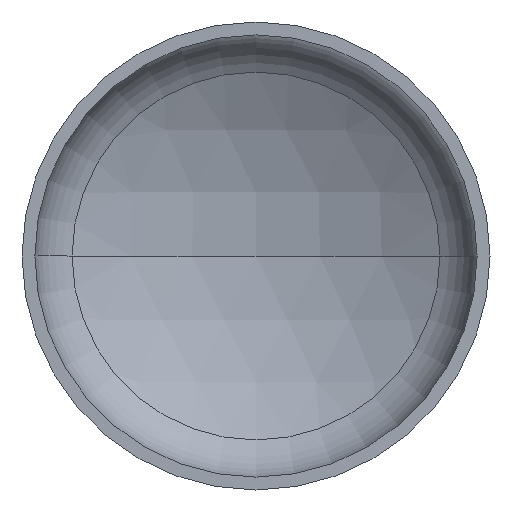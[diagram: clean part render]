
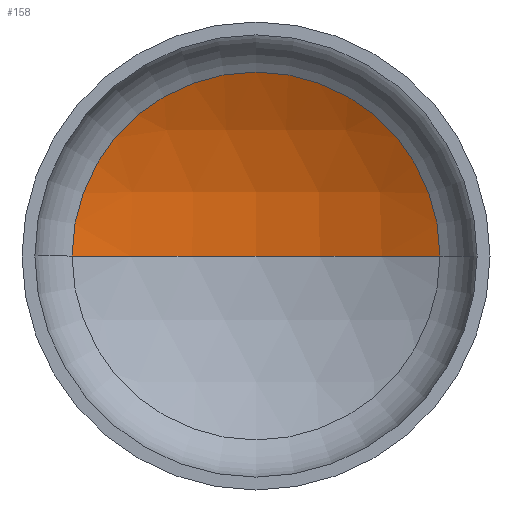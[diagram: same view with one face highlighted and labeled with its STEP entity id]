
A CAD part, front view. The second image highlights one B-rep face of the part: STEP entity #158.
In plain terms, the highlighted spherical face has radius 640 mm.
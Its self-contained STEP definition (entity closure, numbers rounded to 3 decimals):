
#12 = AXIS2_PLACEMENT_3D ( 'NONE', #140, #308, #167 ) ;
#17 = VERTEX_POINT ( 'NONE', #72 ) ;
#19 = AXIS2_PLACEMENT_3D ( 'NONE', #215, #239, #374 ) ;
#37 = AXIS2_PLACEMENT_3D ( 'NONE', #284, #217, #349 ) ;
#45 = AXIS2_PLACEMENT_3D ( 'NONE', #123, #344, #161 ) ;
#49 = ORIENTED_EDGE ( 'NONE', *, *, #350, .F. ) ;
#55 = ORIENTED_EDGE ( 'NONE', *, *, #336, .T. ) ;
#57 = VERTEX_POINT ( 'NONE', #97 ) ;
#67 = EDGE_LOOP ( 'NONE', ( #49, #55, #77 ) ) ;
#72 = CARTESIAN_POINT ( 'NONE',  ( 0., 261.429, 0. ) ) ;
#77 = ORIENTED_EDGE ( 'NONE', *, *, #334, .T. ) ;
#97 = CARTESIAN_POINT ( 'NONE',  ( 314.408, 178.876, 0. ) ) ;
#107 = VERTEX_POINT ( 'NONE', #214 ) ;
#123 = CARTESIAN_POINT ( 'NONE',  ( 0., -378.571, 0. ) ) ;
#140 = CARTESIAN_POINT ( 'NONE',  ( 0., -378.571, 0. ) ) ;
#158 = ADVANCED_FACE ( 'NONE', ( #163 ), #408, .F. ) ;
#161 = DIRECTION ( 'NONE',  ( -1., 0., 0. ) ) ;
#163 = FACE_OUTER_BOUND ( 'NONE', #67, .T. ) ;
#167 = DIRECTION ( 'NONE',  ( 1., 0., 0. ) ) ;
#195 = CIRCLE ( 'NONE', #12, 640. ) ;
#214 = CARTESIAN_POINT ( 'NONE',  ( -314.408, 178.876, 0. ) ) ;
#215 = CARTESIAN_POINT ( 'NONE',  ( 0., -378.571, 0. ) ) ;
#217 = DIRECTION ( 'NONE',  ( 0., -1., 0. ) ) ;
#239 = DIRECTION ( 'NONE',  ( 0., 0., -1. ) ) ;
#264 = CIRCLE ( 'NONE', #37, 314.408 ) ;
#284 = CARTESIAN_POINT ( 'NONE',  ( 0., 178.876, 0. ) ) ;
#308 = DIRECTION ( 'NONE',  ( 0., 0., 1. ) ) ;
#334 = EDGE_CURVE ( 'NONE', #57, #107, #264, .T. ) ;
#336 = EDGE_CURVE ( 'NONE', #17, #57, #383, .T. ) ;
#344 = DIRECTION ( 'NONE',  ( 0., 0., -1. ) ) ;
#349 = DIRECTION ( 'NONE',  ( 1., 0., 0. ) ) ;
#350 = EDGE_CURVE ( 'NONE', #17, #107, #195, .T. ) ;
#374 = DIRECTION ( 'NONE',  ( -1., 0., 0. ) ) ;
#383 = CIRCLE ( 'NONE', #19, 640. ) ;
#408 = SPHERICAL_SURFACE ( 'NONE', #45, 640. ) ;
